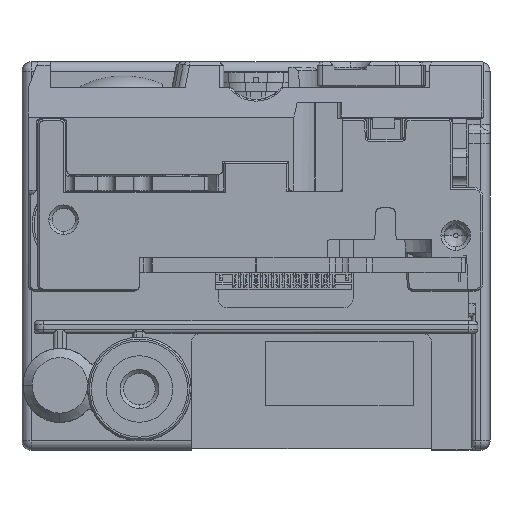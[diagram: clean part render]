
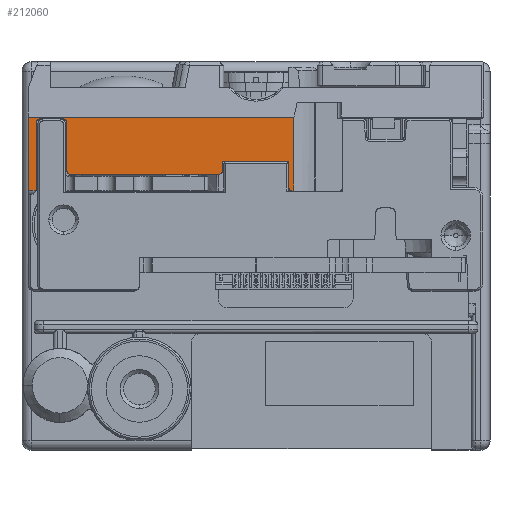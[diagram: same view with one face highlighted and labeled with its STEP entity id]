
A CAD part, top view. The second image highlights one B-rep face of the part: STEP entity #212060.
In plain terms, the highlighted planar face has unit normal (0, 0, 1).
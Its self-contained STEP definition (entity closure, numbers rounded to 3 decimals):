
#4643 = LINE ( 'NONE', #221719, #234035 ) ;
#4927 = ORIENTED_EDGE ( 'NONE', *, *, #207100, .F. ) ;
#5438 = CIRCLE ( 'NONE', #148314, 0.2 ) ;
#13045 = LINE ( 'NONE', #57961, #194276 ) ;
#18489 = VERTEX_POINT ( 'NONE', #223308 ) ;
#19497 = DIRECTION ( 'NONE',  ( 1., 0., 0. ) ) ;
#19639 = CARTESIAN_POINT ( 'NONE',  ( -1.825, 4.7, 3.2 ) ) ;
#19974 = ORIENTED_EDGE ( 'NONE', *, *, #150278, .T. ) ;
#19995 = ORIENTED_EDGE ( 'NONE', *, *, #229395, .T. ) ;
#20020 = DIRECTION ( 'NONE',  ( -1., 0., 0. ) ) ;
#25654 = VERTEX_POINT ( 'NONE', #111314 ) ;
#27417 = LINE ( 'NONE', #217145, #166130 ) ;
#32370 = CARTESIAN_POINT ( 'NONE',  ( 2.049, 7.6, 3.2 ) ) ;
#33299 = EDGE_CURVE ( 'NONE', #18489, #151552, #190852, .T. ) ;
#33536 = LINE ( 'NONE', #233082, #42147 ) ;
#35039 = EDGE_CURVE ( 'NONE', #169714, #25654, #113734, .T. ) ;
#36173 = ORIENTED_EDGE ( 'NONE', *, *, #35039, .T. ) ;
#38506 = CARTESIAN_POINT ( 'NONE',  ( -1.825, 5.2, 3.2 ) ) ;
#38771 = CARTESIAN_POINT ( 'NONE',  ( 1.975, 3.6, 3.2 ) ) ;
#39389 = VERTEX_POINT ( 'NONE', #223018 ) ;
#39874 = CARTESIAN_POINT ( 'NONE',  ( 1.775, 3.8, 3.2 ) ) ;
#42147 = VECTOR ( 'NONE', #124717, 1000. ) ;
#48486 = DIRECTION ( 'NONE',  ( 0., 0., 1. ) ) ;
#48568 = DIRECTION ( 'NONE',  ( 1., 0., 0. ) ) ;
#48840 = CIRCLE ( 'NONE', #203462, 0.2 ) ;
#49379 = VERTEX_POINT ( 'NONE', #60111 ) ;
#49885 = CARTESIAN_POINT ( 'NONE',  ( -11.875, 3.65, 3.2 ) ) ;
#50039 = VERTEX_POINT ( 'NONE', #129626 ) ;
#51787 = EDGE_CURVE ( 'NONE', #57187, #151552, #151348, .T. ) ;
#53958 = DIRECTION ( 'NONE',  ( -1., 0., 0. ) ) ;
#54442 = LINE ( 'NONE', #157369, #91181 ) ;
#54826 = EDGE_CURVE ( 'NONE', #207498, #74956, #65684, .T. ) ;
#57187 = VERTEX_POINT ( 'NONE', #58670 ) ;
#57246 = ORIENTED_EDGE ( 'NONE', *, *, #71256, .F. ) ;
#57961 = CARTESIAN_POINT ( 'NONE',  ( 2.049, 3.6, 3.2 ) ) ;
#58670 = CARTESIAN_POINT ( 'NONE',  ( -10.425, 7.5, 3.2 ) ) ;
#60111 = CARTESIAN_POINT ( 'NONE',  ( -12.3, 3.65, 3.2 ) ) ;
#63603 = ORIENTED_EDGE ( 'NONE', *, *, #227856, .T. ) ;
#64076 = ORIENTED_EDGE ( 'NONE', *, *, #140349, .T. ) ;
#65684 = CIRCLE ( 'NONE', #110382, 0.2 ) ;
#67349 = EDGE_CURVE ( 'NONE', #221182, #104761, #165935, .T. ) ;
#71256 = EDGE_CURVE ( 'NONE', #74956, #104761, #82738, .T. ) ;
#73354 = CARTESIAN_POINT ( 'NONE',  ( -1.825, 5.2, 3.2 ) ) ;
#74173 = EDGE_CURVE ( 'NONE', #116697, #25654, #5438, .T. ) ;
#74956 = VERTEX_POINT ( 'NONE', #39874 ) ;
#75550 = CARTESIAN_POINT ( 'NONE',  ( -11.675, 7.5, 3.2 ) ) ;
#75796 = DIRECTION ( 'NONE',  ( 0., 1., 0. ) ) ;
#80531 = DIRECTION ( 'NONE',  ( 0., 1., 0. ) ) ;
#81789 = VECTOR ( 'NONE', #48568, 1000. ) ;
#82110 = CARTESIAN_POINT ( 'NONE',  ( -10.225, 7.3, 3.2 ) ) ;
#82738 = LINE ( 'NONE', #147780, #144933 ) ;
#83245 = AXIS2_PLACEMENT_3D ( 'NONE', #212230, #48486, #158351 ) ;
#83510 = CIRCLE ( 'NONE', #138014, 0.2 ) ;
#85310 = CARTESIAN_POINT ( 'NONE',  ( -12.3, 3.65, 3.2 ) ) ;
#88598 = DIRECTION ( 'NONE',  ( 0., 1., 0. ) ) ;
#88606 = LINE ( 'NONE', #180480, #184842 ) ;
#89381 = CARTESIAN_POINT ( 'NONE',  ( -10.425, 7.3, 3.2 ) ) ;
#91181 = VECTOR ( 'NONE', #139230, 1000. ) ;
#95271 = EDGE_CURVE ( 'NONE', #227898, #50039, #4643, .T. ) ;
#100526 = EDGE_CURVE ( 'NONE', #212749, #211817, #83510, .T. ) ;
#102972 = DIRECTION ( 'NONE',  ( 0., 1., 0. ) ) ;
#103834 = CARTESIAN_POINT ( 'NONE',  ( -10.025, 4.7, 3.2 ) ) ;
#104454 = FACE_OUTER_BOUND ( 'NONE', #197263, .T. ) ;
#104761 = VERTEX_POINT ( 'NONE', #112038 ) ;
#107847 = EDGE_CURVE ( 'NONE', #219052, #227898, #13045, .T. ) ;
#109514 = DIRECTION ( 'NONE',  ( 1., 0., 0. ) ) ;
#110204 = ORIENTED_EDGE ( 'NONE', *, *, #33299, .F. ) ;
#110382 = AXIS2_PLACEMENT_3D ( 'NONE', #177781, #231615, #194426 ) ;
#111314 = CARTESIAN_POINT ( 'NONE',  ( -11.875, 7.3, 3.2 ) ) ;
#112038 = CARTESIAN_POINT ( 'NONE',  ( 1.775, 5.2, 3.2 ) ) ;
#113734 = LINE ( 'NONE', #49885, #187235 ) ;
#113814 = ORIENTED_EDGE ( 'NONE', *, *, #136274, .F. ) ;
#116697 = VERTEX_POINT ( 'NONE', #75550 ) ;
#118899 = PLANE ( 'NONE',  #83245 ) ;
#122287 = ORIENTED_EDGE ( 'NONE', *, *, #95271, .T. ) ;
#123572 = VECTOR ( 'NONE', #102972, 1000. ) ;
#124717 = DIRECTION ( 'NONE',  ( 0., 1., 0. ) ) ;
#129626 = CARTESIAN_POINT ( 'NONE',  ( -12.3, 7.6, 3.2 ) ) ;
#131914 = LINE ( 'NONE', #85310, #123572 ) ;
#134861 = VECTOR ( 'NONE', #19497, 1000. ) ;
#136274 = EDGE_CURVE ( 'NONE', #57187, #116697, #88606, .T. ) ;
#138014 = AXIS2_PLACEMENT_3D ( 'NONE', #226770, #171352, #188779 ) ;
#139230 = DIRECTION ( 'NONE',  ( 1., 0., 0. ) ) ;
#139817 = VECTOR ( 'NONE', #80531, 1000. ) ;
#140116 = ORIENTED_EDGE ( 'NONE', *, *, #67349, .T. ) ;
#140349 = EDGE_CURVE ( 'NONE', #212749, #221182, #33536, .T. ) ;
#144933 = VECTOR ( 'NONE', #202390, 1000. ) ;
#147753 = CARTESIAN_POINT ( 'NONE',  ( -11.675, 7.3, 3.2 ) ) ;
#147780 = CARTESIAN_POINT ( 'NONE',  ( 1.775, 3.8, 3.2 ) ) ;
#148314 = AXIS2_PLACEMENT_3D ( 'NONE', #147753, #203928, #75796 ) ;
#150278 = EDGE_CURVE ( 'NONE', #39389, #211817, #191822, .T. ) ;
#151348 = CIRCLE ( 'NONE', #152299, 0.2 ) ;
#151552 = VERTEX_POINT ( 'NONE', #82110 ) ;
#152142 = CARTESIAN_POINT ( 'NONE',  ( -2.025, 4.5, 3.2 ) ) ;
#152299 = AXIS2_PLACEMENT_3D ( 'NONE', #89381, #178779, #88598 ) ;
#157369 = CARTESIAN_POINT ( 'NONE',  ( -12.3, 3.65, 3.2 ) ) ;
#158351 = DIRECTION ( 'NONE',  ( 1., 0., 0. ) ) ;
#165517 = ORIENTED_EDGE ( 'NONE', *, *, #51787, .T. ) ;
#165935 = LINE ( 'NONE', #38506, #134861 ) ;
#166130 = VECTOR ( 'NONE', #109514, 1000. ) ;
#169714 = VERTEX_POINT ( 'NONE', #209384 ) ;
#171352 = DIRECTION ( 'NONE',  ( 0., 0., -1. ) ) ;
#172695 = CARTESIAN_POINT ( 'NONE',  ( -10.025, 4.5, 3.2 ) ) ;
#174304 = EDGE_CURVE ( 'NONE', #207498, #219052, #27417, .T. ) ;
#177163 = DIRECTION ( 'NONE',  ( 0., 1., 0. ) ) ;
#177781 = CARTESIAN_POINT ( 'NONE',  ( 1.975, 3.8, 3.2 ) ) ;
#178779 = DIRECTION ( 'NONE',  ( 0., 0., -1. ) ) ;
#180480 = CARTESIAN_POINT ( 'NONE',  ( -10.425, 7.5, 3.2 ) ) ;
#184493 = DIRECTION ( 'NONE',  ( 0., 1., 0. ) ) ;
#184842 = VECTOR ( 'NONE', #53958, 1000. ) ;
#185799 = ORIENTED_EDGE ( 'NONE', *, *, #54826, .F. ) ;
#187235 = VECTOR ( 'NONE', #177163, 1000. ) ;
#188779 = DIRECTION ( 'NONE',  ( 1., 0., 0. ) ) ;
#190852 = LINE ( 'NONE', #225290, #139817 ) ;
#191822 = LINE ( 'NONE', #172695, #81789 ) ;
#194276 = VECTOR ( 'NONE', #184493, 1000. ) ;
#194426 = DIRECTION ( 'NONE',  ( 0., -1., 0. ) ) ;
#197263 = EDGE_LOOP ( 'NONE', ( #36173, #226057, #113814, #165517, #110204, #19995, #19974, #198318, #64076, #140116, #57246, #185799, #233431, #208809, #122287, #4927, #63603 ) ) ;
#198318 = ORIENTED_EDGE ( 'NONE', *, *, #100526, .F. ) ;
#202390 = DIRECTION ( 'NONE',  ( 0., 1., 0. ) ) ;
#203462 = AXIS2_PLACEMENT_3D ( 'NONE', #103834, #230393, #216232 ) ;
#203928 = DIRECTION ( 'NONE',  ( 0., 0., 1. ) ) ;
#207100 = EDGE_CURVE ( 'NONE', #49379, #50039, #131914, .T. ) ;
#207498 = VERTEX_POINT ( 'NONE', #38771 ) ;
#208809 = ORIENTED_EDGE ( 'NONE', *, *, #107847, .T. ) ;
#209384 = CARTESIAN_POINT ( 'NONE',  ( -11.875, 3.65, 3.2 ) ) ;
#211817 = VERTEX_POINT ( 'NONE', #152142 ) ;
#212060 = ADVANCED_FACE ( 'NONE', ( #104454 ), #118899, .T. ) ;
#212230 = CARTESIAN_POINT ( 'NONE',  ( -12.3, 0., 3.2 ) ) ;
#212749 = VERTEX_POINT ( 'NONE', #19639 ) ;
#216232 = DIRECTION ( 'NONE',  ( -1., 0., 0. ) ) ;
#217145 = CARTESIAN_POINT ( 'NONE',  ( 1.975, 3.6, 3.2 ) ) ;
#219052 = VERTEX_POINT ( 'NONE', #221023 ) ;
#221023 = CARTESIAN_POINT ( 'NONE',  ( 2.049, 3.6, 3.2 ) ) ;
#221182 = VERTEX_POINT ( 'NONE', #73354 ) ;
#221719 = CARTESIAN_POINT ( 'NONE',  ( 2.049, 7.6, 3.2 ) ) ;
#223018 = CARTESIAN_POINT ( 'NONE',  ( -10.025, 4.5, 3.2 ) ) ;
#223308 = CARTESIAN_POINT ( 'NONE',  ( -10.225, 4.7, 3.2 ) ) ;
#225290 = CARTESIAN_POINT ( 'NONE',  ( -10.225, 4.7, 3.2 ) ) ;
#226057 = ORIENTED_EDGE ( 'NONE', *, *, #74173, .F. ) ;
#226770 = CARTESIAN_POINT ( 'NONE',  ( -2.025, 4.7, 3.2 ) ) ;
#227856 = EDGE_CURVE ( 'NONE', #49379, #169714, #54442, .T. ) ;
#227898 = VERTEX_POINT ( 'NONE', #32370 ) ;
#229395 = EDGE_CURVE ( 'NONE', #18489, #39389, #48840, .T. ) ;
#230393 = DIRECTION ( 'NONE',  ( 0., 0., 1. ) ) ;
#231615 = DIRECTION ( 'NONE',  ( 0., 0., -1. ) ) ;
#233082 = CARTESIAN_POINT ( 'NONE',  ( -1.825, 4.7, 3.2 ) ) ;
#233431 = ORIENTED_EDGE ( 'NONE', *, *, #174304, .T. ) ;
#234035 = VECTOR ( 'NONE', #20020, 1000. ) ;
